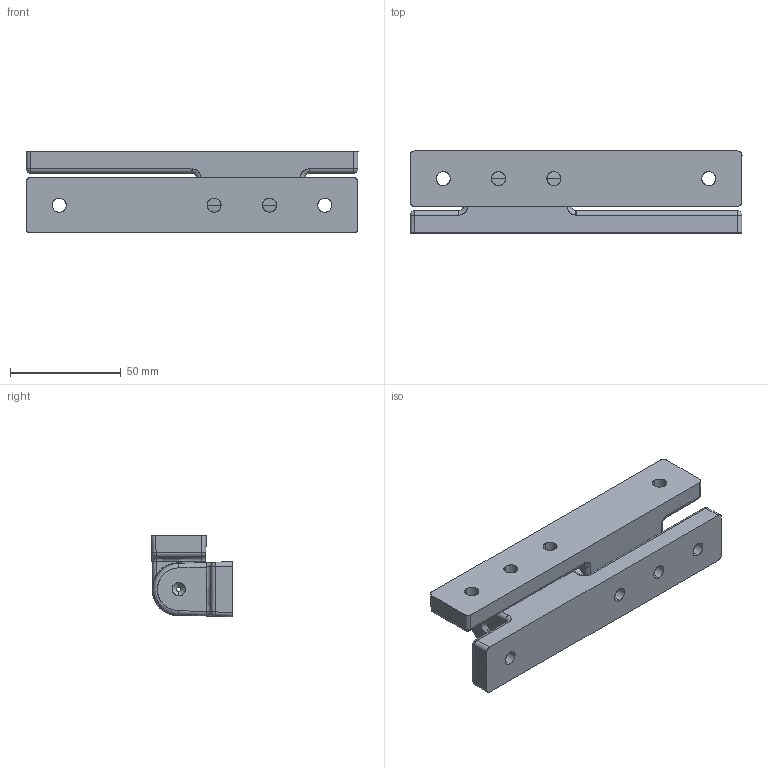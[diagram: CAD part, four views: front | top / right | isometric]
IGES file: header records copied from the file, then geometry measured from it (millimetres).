
Start section: SolidWorks IGES file using analytic representation for surfaces
Bounding box: 150 x 37 x 37 mm (x, y, z)
Surface area: 30058.4 mm2 (no closed solid volume)
Topology: 0 solids, 0 shells, 142 faces, 1668 edges, 1668 vertices
Faces by surface type: revolution 102, bspline 40
